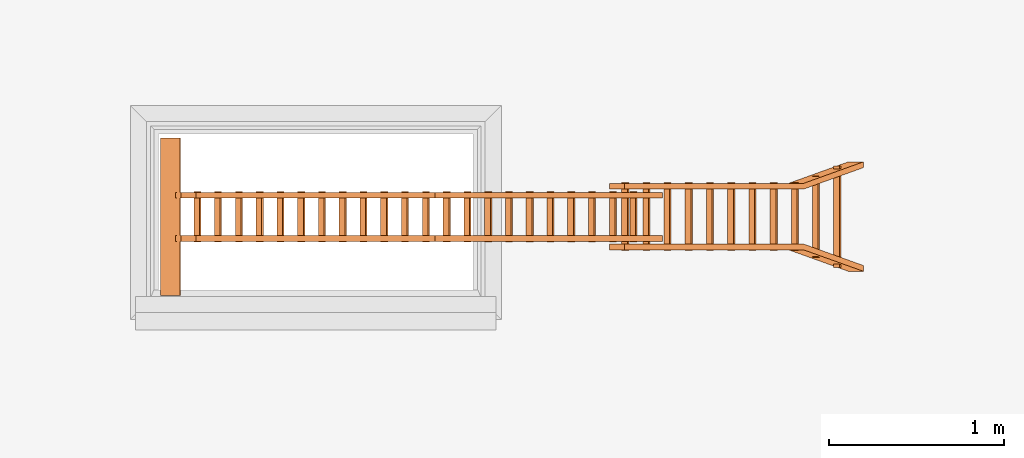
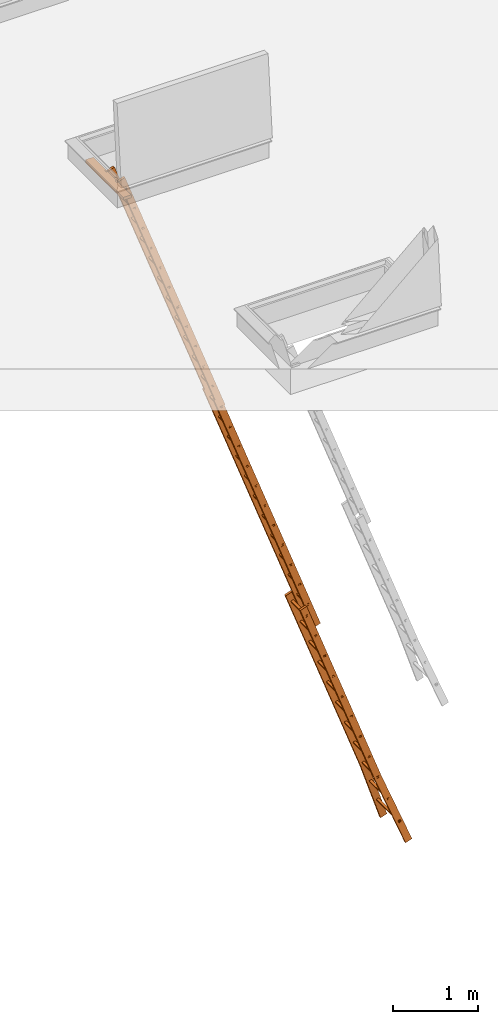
# One storey, part 6 of 28: 1 proxy, 2 openings.
"""IFC2X3 building model written with IfcOpenShell, lengths in millimetres."""

import ifcopenshell
import ifcopenshell.guid

model = None  # the IFC model being written
_history = None  # IfcOwnerHistory: only IFC2X3 demands one
_inside = {}  # id of a spatial element -> (the spatial element, [elements in it])
_under = {}  # id of a project, library or spatial element -> (it, [spatial elements below it])
_declared = {}  # id of a project -> (the project, [libraries it declares])
_typed = {}  # id of a type object -> (the type object, [elements of that type])
_made_of = {}  # id of a material, layer set ... -> (it, [elements and type objects made of it])


def new_model(schema):
    """Start an empty IFC model of exactly this schema.

    Asked for "IFC4X3", IfcOpenShell would pick the latest addendum, in which some entities
    have other attributes; the version numbers below select the first issue.
    IFC2X3 requires an IfcOwnerHistory on every rooted entity: one is made here for all.
    """
    global model, _history
    if schema == "IFC4X3":
        model = ifcopenshell.file(schema_version=(4, 3, 0, 0))
    else:
        model = ifcopenshell.file(schema=schema)
    _inside.clear()
    _under.clear()
    _declared.clear()
    _typed.clear()
    _made_of.clear()
    _history = None
    if model.schema == "IFC2X3":
        org = make("IfcOrganization", Name="unknown")
        user = make(
            "IfcPersonAndOrganization",
            ThePerson=make("IfcPerson", FamilyName="unknown"),
            TheOrganization=org,
        )
        app = make(
            "IfcApplication",
            ApplicationDeveloper=org,
            Version="unknown",
            ApplicationFullName="unknown",
            ApplicationIdentifier="unknown",
        )
        _history = make(
            "IfcOwnerHistory",
            OwningUser=user,
            OwningApplication=app,
            ChangeAction="ADDED",
            CreationDate=0,
        )
    return model


def make(cls, **values):
    """One entity of the class cls with the attributes given. An attribute that is None is left unset."""
    return model.create_entity(
        cls, **{name: value for name, value in values.items() if value is not None}
    )


def entity(cls, *values):
    """Any entity or typed value of the class cls, its attributes in the order of the schema. None: left unset."""
    e = model.create_entity(cls)
    for i, value in enumerate(values):
        if value is not None:
            e[i] = value
    return e


def rooted(cls, **values):
    """An entity with a GlobalId (a new one), such as an element, a storey or a relation."""
    return make(cls, GlobalId=ifcopenshell.guid.new(), OwnerHistory=_history, **values)


def si_unit(unit_type, name, prefix=None):
    """IfcSIUnit, for example si_unit("LENGTHUNIT", "METRE", prefix="MILLI")."""
    return make("IfcSIUnit", UnitType=unit_type, Prefix=prefix, Name=name)


def converted_unit(unit_type, name, factor, base, dimensions=None, offset=None):
    """IfcConversionBasedUnit, such as the inch: factor (a typed value) times the base unit."""
    return make(
        "IfcConversionBasedUnit"
        if offset is None
        else "IfcConversionBasedUnitWithOffset",
        ConversionOffset=offset,
        Dimensions=None
        if dimensions is None
        else entity("IfcDimensionalExponents", *dimensions),
        UnitType=unit_type,
        Name=name,
        ConversionFactor=make(
            "IfcMeasureWithUnit", ValueComponent=factor, UnitComponent=base
        ),
    )


def derived_unit(unit_type, elements):
    """IfcDerivedUnit: a product of units, each with its exponent."""
    return make(
        "IfcDerivedUnit",
        Elements=[
            make("IfcDerivedUnitElement", Unit=unit, Exponent=power)
            for unit, power in elements
        ],
        UnitType=unit_type,
    )


def assignment(units):
    """IfcUnitAssignment: the units of a project."""
    return None if units is None else make("IfcUnitAssignment", Units=units)


def point(xyz):
    """IfcCartesianPoint."""
    return None if xyz is None else make("IfcCartesianPoint", Coordinates=xyz)


def direction(xyz):
    """IfcDirection."""
    return None if xyz is None else make("IfcDirection", DirectionRatios=xyz)


def frame(location, z_axis=None, x_axis=None):
    """IfcAxis2Placement3D, a coordinate frame: its origin and axes. An axis left out is left unset."""
    return make(
        "IfcAxis2Placement3D",
        Location=point(location),
        Axis=direction(z_axis),
        RefDirection=direction(x_axis),
    )


def frame_2d(location, x_axis=None):
    """IfcAxis2Placement2D, a coordinate frame in the plane: its origin and x axis."""
    return make(
        "IfcAxis2Placement2D", Location=point(location), RefDirection=direction(x_axis)
    )


def origin():
    """The frame at (0, 0, 0) with its axes left unset."""
    return frame((0.0, 0.0, 0.0))


def origin_2d_with_axis():
    """The frame at (0, 0) in the plane with the x axis (1, 0) written out."""
    return frame_2d((0.0, 0.0), x_axis=(1.0, 0.0))


def place(relative_to, where):
    """IfcLocalPlacement: puts the frame where relative to a parent placement (None: the world)."""
    return make(
        "IfcLocalPlacement", PlacementRelTo=relative_to, RelativePlacement=where
    )


def context(
    kind, dimensions, precision=None, world=None, true_north=None, identifier=None
):
    """IfcGeometricRepresentationContext, for example the 3D "Model" context."""
    return make(
        "IfcGeometricRepresentationContext",
        ContextIdentifier=identifier,
        ContextType=kind,
        CoordinateSpaceDimension=dimensions,
        Precision=precision,
        WorldCoordinateSystem=world,
        TrueNorth=true_north,
    )


def subcontext(parent, identifier, kind, view, scale=None):
    """IfcGeometricRepresentationSubContext, for example "Body" below "Model"."""
    return make(
        "IfcGeometricRepresentationSubContext",
        ContextIdentifier=identifier,
        ContextType=kind,
        ParentContext=parent,
        TargetScale=scale,
        TargetView=view,
    )


def project(units=None, contexts=None):
    """IfcProject with its units and contexts."""
    return rooted(
        "IfcProject",
        Name="project",
        RepresentationContexts=contexts,
        UnitsInContext=assignment(units),
    )


def spatial(cls, under=None, at=None, **own):
    """A site, building, storey or space (cls), placed at a placement, below another one or the project."""
    s = rooted(cls, ObjectPlacement=at, **own)
    if under is not None:
        _under.setdefault(under.id(), (under, []))[1].append(s)
    return s


def polyline(points):
    """IfcPolyline through the points."""
    return make("IfcPolyline", Points=[point(p) for p in points])


def circle_curve(where, radius):
    """IfcCircle in the frame where."""
    return make("IfcCircle", Position=where, Radius=radius)


def parameter(value):
    """IfcParameterValue: where a trimmed curve begins or ends, as a parameter of its basis curve."""
    return model.create_entity("IfcParameterValue", value)


def trimmed(basis, trim1, trim2, sense, master):
    """IfcTrimmedCurve: the piece of a basis curve between two trims."""
    return make(
        "IfcTrimmedCurve",
        BasisCurve=basis,
        Trim1=trim1,
        Trim2=trim2,
        SenseAgreement=sense,
        MasterRepresentation=master,
    )


def segment(curve, same_sense, transition):
    """IfcCompositeCurveSegment."""
    return make(
        "IfcCompositeCurveSegment",
        Transition=transition,
        SameSense=same_sense,
        ParentCurve=curve,
    )


def composite_curve(segments, self_intersect=None):
    """IfcCompositeCurve: segments joined end to end."""
    return make("IfcCompositeCurve", Segments=segments, SelfIntersect=self_intersect)


def profile(cls, at=None, kind="AREA", **sizes):
    """A parametric profile (cls). Its sizes go by their IFC names, for example OverallWidth=200.0."""
    return make(cls, ProfileType=kind, Position=at, **sizes)


def rectangle(**sizes):
    """IfcRectangleProfileDef."""
    return profile("IfcRectangleProfileDef", **sizes)


def outline(outer, holes=None, kind="AREA"):
    """IfcArbitraryClosedProfileDef: a profile drawn as a closed curve; with holes, ...WithVoids."""
    if holes is None:
        return make("IfcArbitraryClosedProfileDef", ProfileType=kind, OuterCurve=outer)
    return make(
        "IfcArbitraryProfileDefWithVoids",
        ProfileType=kind,
        OuterCurve=outer,
        InnerCurves=holes,
    )


def extrude(swept, where, along, depth):
    """IfcExtrudedAreaSolid: the profile swept, set in the frame where, extruded along a direction by depth."""
    return make(
        "IfcExtrudedAreaSolid",
        SweptArea=swept,
        Position=where,
        ExtrudedDirection=direction(along),
        Depth=depth,
    )


def shape(context_of_items, identifier, shape_type, items):
    """IfcShapeRepresentation: the items that make up one representation, for example the "Body"."""
    return make(
        "IfcShapeRepresentation",
        ContextOfItems=context_of_items,
        RepresentationIdentifier=identifier,
        RepresentationType=shape_type,
        Items=items,
    )


def source(mapping_origin, context_of_items, identifier, shape_type, items):
    """IfcRepresentationMap: a shape defined once, which mapped items show again and again."""
    return make(
        "IfcRepresentationMap",
        MappingOrigin=mapping_origin,
        MappedRepresentation=shape(context_of_items, identifier, shape_type, items),
    )


def transform(
    local_origin,
    x_axis=None,
    y_axis=None,
    z_axis=None,
    scale=None,
    scale2=None,
    scale3=None,
    uniform=True,
):
    """IfcCartesianTransformationOperator3D, or its non-uniform kind. x_axis, y_axis, z_axis: its Axis1, 2, 3."""
    if uniform:
        return make(
            "IfcCartesianTransformationOperator3D",
            Axis1=direction(x_axis),
            Axis2=direction(y_axis),
            LocalOrigin=point(local_origin),
            Scale=scale,
            Axis3=direction(z_axis),
        )
    return make(
        "IfcCartesianTransformationOperator3DnonUniform",
        Axis1=direction(x_axis),
        Axis2=direction(y_axis),
        LocalOrigin=point(local_origin),
        Scale=scale,
        Axis3=direction(z_axis),
        Scale2=scale2,
        Scale3=scale3,
    )


def mapped(mapping_source, mapping_target):
    """IfcMappedItem: shows the shape of a source again, moved by a transform."""
    return make(
        "IfcMappedItem", MappingSource=mapping_source, MappingTarget=mapping_target
    )


def made_of(thing, what):
    """Note that an element or type object is made of a material, layer set ...; save() writes the relation."""
    if what is not None:
        _made_of.setdefault(what.id(), (what, []))[1].append(thing)
    return thing


def type_object(cls, material=None, **own):
    """A type object (cls), such as IfcWallType, which elements share."""
    return made_of(rooted(cls, **own), material)


def type_shapes(of_type, sources):
    """Give a type object the sources (RepresentationMaps) that its elements show as mapped items."""
    of_type.RepresentationMaps = sources


def element(
    cls,
    number,
    at=None,
    inside=None,
    cuts=None,
    type_object=None,
    material=None,
    context=None,
    identifier="Body",
    shape_type=None,
    held_by="IfcProductDefinitionShape",
    body=None,
    shapes=None,
    **own,
):
    """One element of the class cls, such as IfcWall. Its Tag is "e" and its number.

    at: its placement. inside: the storey or other place that contains it. cuts: it is an
    opening in that element (IfcRelVoidsElement). A single representation is given by context,
    identifier, shape_type and body (its items); several are given by shapes. held_by: the class
    of the entity that holds the representations. save() writes the other relations.
    """
    e = rooted(cls, Tag="e%d" % number, ObjectPlacement=at, **own)
    if body is not None:
        shapes = [shape(context, identifier, shape_type, body)]
    if shapes is not None:
        e.Representation = make(held_by, Representations=shapes)
    if inside is not None:
        _inside.setdefault(inside.id(), (inside, []))[1].append(e)
    if cuts is not None:
        rooted(
            "IfcRelVoidsElement", RelatingBuildingElement=cuts, RelatedOpeningElement=e
        )
    if type_object is not None:
        _typed.setdefault(type_object.id(), (type_object, []))[1].append(e)
    return made_of(e, material)


def aggregate(whole, parts):
    """IfcRelAggregates: a whole, such as a stair, and the parts it consists of."""
    return rooted("IfcRelAggregates", RelatingObject=whole, RelatedObjects=parts)


def save(model, path):
    """Write the relations noted so far, then the file.

    IfcRelAggregates (storeys below a building ...), IfcRelContainedInSpatialStructure (elements
    in a storey), IfcRelDefinesByType, IfcRelAssociatesMaterial and IfcRelDeclares: one each for
    every whole, place, type object, material and project.
    """
    for whole, parts in _under.values():
        aggregate(whole, parts)
    for where, things in _inside.values():
        rooted(
            "IfcRelContainedInSpatialStructure",
            RelatedElements=things,
            RelatingStructure=where,
        )
    for kind, things in _typed.values():
        rooted("IfcRelDefinesByType", RelatedObjects=things, RelatingType=kind)
    for what, things in _made_of.values():
        rooted("IfcRelAssociatesMaterial", RelatedObjects=things, RelatingMaterial=what)
    for by, libraries in _declared.values():
        rooted("IfcRelDeclares", RelatingContext=by, RelatedDefinitions=libraries)
    model.write(path)


model = new_model("IFC2X3")

# Units and contexts
model_context = context("Model", 3, precision=0.01, world=origin(), true_north=direction((6.12303176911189e-17, 1.0)))
body_context = subcontext(model_context, "Body", "Model", "MODEL_VIEW")
ifc_project = project(units=[si_unit("LENGTHUNIT", "METRE", prefix="MILLI"), si_unit("AREAUNIT", "SQUARE_METRE"), si_unit("VOLUMEUNIT", "CUBIC_METRE"), converted_unit("PLANEANGLEUNIT", "DEGREE", entity("IfcRatioMeasure", 0.0174532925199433), si_unit("PLANEANGLEUNIT", "RADIAN"), dimensions=[0, 0, 0, 0, 0, 0, 0]), si_unit("MASSUNIT", "GRAM", prefix="KILO"), derived_unit("MASSDENSITYUNIT", [(si_unit("MASSUNIT", "GRAM", prefix="KILO"), 1), (si_unit("LENGTHUNIT", "METRE"), -3)]), si_unit("TIMEUNIT", "SECOND"), si_unit("FREQUENCYUNIT", "HERTZ"), si_unit("THERMODYNAMICTEMPERATUREUNIT", "DEGREE_CELSIUS"), derived_unit("THERMALTRANSMITTANCEUNIT", [(si_unit("MASSUNIT", "GRAM", prefix="KILO"), 1), (si_unit("THERMODYNAMICTEMPERATUREUNIT", "KELVIN"), -1), (si_unit("TIMEUNIT", "SECOND"), -3)]), derived_unit("VOLUMETRICFLOWRATEUNIT", [(si_unit("LENGTHUNIT", "METRE"), 3), (si_unit("TIMEUNIT", "SECOND"), -1)]), si_unit("ELECTRICCURRENTUNIT", "AMPERE"), si_unit("ELECTRICVOLTAGEUNIT", "VOLT"), si_unit("POWERUNIT", "WATT"), si_unit("FORCEUNIT", "NEWTON", prefix="KILO"), si_unit("ILLUMINANCEUNIT", "LUX"), si_unit("LUMINOUSFLUXUNIT", "LUMEN"), si_unit("LUMINOUSINTENSITYUNIT", "CANDELA"), derived_unit("USERDEFINED", [(si_unit("MASSUNIT", "GRAM", prefix="KILO"), -1), (si_unit("LENGTHUNIT", "METRE"), -2), (si_unit("TIMEUNIT", "SECOND"), 3), (si_unit("LUMINOUSFLUXUNIT", "LUMEN"), 1)]), derived_unit("LINEARVELOCITYUNIT", [(si_unit("LENGTHUNIT", "METRE"), 1), (si_unit("TIMEUNIT", "SECOND"), -1)]), si_unit("PRESSUREUNIT", "PASCAL"), derived_unit("USERDEFINED", [(si_unit("LENGTHUNIT", "METRE"), -2), (si_unit("MASSUNIT", "GRAM", prefix="KILO"), 1), (si_unit("TIMEUNIT", "SECOND"), -2)])], contexts=[model_context])

# Site, building, storey
site_placement = place(None, origin())
site = spatial("IfcSite", under=ifc_project, at=site_placement, Name="Default", CompositionType="ELEMENT")
building_placement = place(site_placement, origin())
building = spatial("IfcBuilding", under=site, at=building_placement, CompositionType="ELEMENT")
storey_placement = place(building_placement, frame((0.0, 0.0, 4000.0)))
storey = spatial("IfcBuildingStorey", under=building, at=storey_placement, Name="Level 2", CompositionType="ELEMENT", Elevation=4000.0)

# Proxy, openings
building_element_proxy_type = type_object("IfcBuildingElementProxyType", Name="9_Topaccess_Trap_3delige1", PredefinedType="NOTDEFINED")
shared_shape = source(origin(), body_context, "Body", "SweptSolid", [
    extrude(outline(composite_curve([segment(polyline([(-20.0, -72.6666666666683), (20.0, -72.6666666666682)]), True, "CONTINUOUS"), segment(polyline([(20.0, -72.6666666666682), (20.0, 31.8333333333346)]), True, "CONTINUOUS"), segment(trimmed(circle_curve(frame_2d((11.0, 31.8333333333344), x_axis=(0.939692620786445, -0.342020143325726)), 8.99999999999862), [parameter(20.0000000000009)], [parameter(109.999999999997)], True, "PARAMETER"), True, "CONTINUOUS"), segment(polyline([(11.0, 40.8333333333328), (-11.0, 40.833333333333)]), True, "CONTINUOUS"), segment(trimmed(circle_curve(frame_2d((-11.0, 31.8333333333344), x_axis=(0.939692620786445, -0.342020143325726)), 8.99999999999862), [parameter(109.999999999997)], [parameter(199.999999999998)], True, "PARAMETER"), True, "CONTINUOUS"), segment(polyline([(-20.0, 31.8333333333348), (-20.0, -72.6666666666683)]), True, "CONTINUOUS")], self_intersect=False)), frame((-484.291584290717, 5437.00468660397, 85.555153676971), z_axis=(1.0, 0.0, 0.0), x_axis=(0.0, 0.939692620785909, 0.342020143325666)), (0.0, 0.0, 1.0), 900.0),
    extrude(outline(composite_curve([segment(polyline([(34.5620685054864, -17.3803405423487), (-85.4379314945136, -17.3803405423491)]), True, "CONTINUOUS"), segment(polyline([(-85.4379314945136, -17.3803405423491), (-85.4379314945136, -20.3803405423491)]), True, "CONTINUOUS"), segment(polyline([(-85.4379314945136, -20.3803405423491), (34.8237042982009, -20.3803405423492)]), True, "CONTINUOUS"), segment(trimmed(circle_curve(frame_2d((31.2529900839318, 0.719659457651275), x_axis=(1.0, 0.0)), 21.4), [parameter(279.605058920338)], [parameter(66.7401617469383)], True, "PARAMETER"), True, "CONTINUOUS"), segment(polyline([(39.7038846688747, 20.3803405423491), (11.3620685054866, 20.380340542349)]), True, "CONTINUOUS"), segment(polyline([(11.3620685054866, 20.380340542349), (11.3620685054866, 17.380340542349)]), True, "CONTINUOUS"), segment(polyline([(11.3620685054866, 17.380340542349), (39.0620685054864, 17.3803405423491)]), True, "CONTINUOUS"), segment(trimmed(circle_curve(frame_2d((31.2529900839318, 0.719659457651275), x_axis=(1.0, 0.0)), 18.4), [parameter(280.36051137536)], [parameter(64.8869014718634)], True, "PARAMETER"), False, "CONTINUOUS")], self_intersect=False)), frame((72.0, 5400.1320556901, 113.619659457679), z_axis=(-1.0, 0.0, 0.0), x_axis=(0.0, 1.0, 0.0)), (0.0, 0.0, -1.0), 33.0),
    extrude(outline(composite_curve([segment(polyline([(-85.4379314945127, -17.3803405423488), (-85.4379314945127, -20.3803405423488)]), True, "CONTINUOUS"), segment(polyline([(-85.4379314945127, -20.3803405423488), (34.8237042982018, -20.3803405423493)]), True, "CONTINUOUS"), segment(trimmed(circle_curve(frame_2d((31.2529900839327, 0.719659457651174), x_axis=(1.0, 0.0)), 21.4), [parameter(279.605058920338)], [parameter(66.7401617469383)], True, "PARAMETER"), True, "CONTINUOUS"), segment(polyline([(39.7038846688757, 20.380340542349), (11.3620685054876, 20.380340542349)]), True, "CONTINUOUS"), segment(polyline([(11.3620685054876, 20.380340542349), (11.3620685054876, 17.380340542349)]), True, "CONTINUOUS"), segment(polyline([(11.3620685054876, 17.380340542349), (39.0620685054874, 17.380340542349)]), True, "CONTINUOUS"), segment(trimmed(circle_curve(frame_2d((31.2529900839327, 0.719659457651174), x_axis=(1.0, 0.0)), 18.4), [parameter(280.36051137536)], [parameter(64.8869014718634)], True, "PARAMETER"), False, "CONTINUOUS"), segment(polyline([(34.5620685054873, -17.3803405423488), (-85.4379314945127, -17.3803405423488)]), True, "CONTINUOUS")], self_intersect=False)), frame((-175.0, 5400.13205569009, 113.619659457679), z_axis=(-1.0, 0.0, 0.0), x_axis=(0.0, 1.0, 0.0)), (0.0, 0.0, -1.0), 33.0000000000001),
    extrude(outline(polyline([(-11.5216143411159, -16.5), (13.8405381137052, -16.5), (13.8405381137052, 16.4999999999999), (-16.1594618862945, 16.5), (-11.5216143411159, -16.5)]), holes=[polyline([(8.84053811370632, -11.5), (-7.1751806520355, -11.5), (-10.4076198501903, 11.5000000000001), (8.84053811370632, 11.5), (8.84053811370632, -11.5)])]), frame((-178.583168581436, 1440.72573419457, 171.084388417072), z_axis=(1.0, 0.0, 0.0), x_axis=(0.0, -1.0, 0.0)), (0.0, 0.0, 1.0), 288.583168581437),
    extrude(outline(polyline([(-11.5216143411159, -16.5), (13.8405381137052, -16.5), (13.8405381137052, 16.4999999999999), (-16.1594618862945, 16.5), (-11.5216143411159, -16.5)]), holes=[polyline([(8.84053811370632, -11.5), (-7.1751806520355, -11.5), (-10.4076198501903, 11.5000000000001), (8.84053811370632, 11.5), (8.84053811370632, -11.5)])]), frame((-178.583168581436, 1093.22573419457, 171.084388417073), z_axis=(1.0, 0.0, 0.0), x_axis=(0.0, -1.0, 0.0)), (0.0, 0.0, 1.0), 288.583168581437),
    extrude(outline(polyline([(-11.5216143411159, -16.5), (13.8405381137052, -16.5), (13.8405381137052, 16.4999999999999), (-16.1594618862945, 16.5), (-11.5216143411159, -16.5)]), holes=[polyline([(8.84053811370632, -11.5), (-7.1751806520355, -11.5), (-10.4076198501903, 11.5000000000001), (8.84053811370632, 11.5), (8.84053811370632, -11.5)])]), frame((-178.583168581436, 745.725734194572, 171.084388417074), z_axis=(1.0, 0.0, 0.0), x_axis=(0.0, -1.0, 0.0)), (0.0, 0.0, 1.0), 288.583168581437),
    extrude(outline(polyline([(-11.5216143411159, -16.5), (13.8405381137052, -16.5), (13.8405381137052, 16.4999999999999), (-16.1594618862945, 16.5), (-11.5216143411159, -16.5)]), holes=[polyline([(8.84053811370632, -11.5), (-7.1751806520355, -11.5), (-10.4076198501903, 11.5000000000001), (8.84053811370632, 11.5), (8.84053811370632, -11.5)])]), frame((-178.583168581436, 398.225734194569, 171.084388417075), z_axis=(1.0, 0.0, 0.0), x_axis=(0.0, -1.0, 0.0)), (0.0, 0.0, 1.0), 288.583168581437),
    extrude(outline(polyline([(-11.5216143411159, -16.5), (13.8405381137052, -16.5), (13.8405381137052, 16.4999999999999), (-16.1594618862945, 16.5), (-11.5216143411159, -16.5)]), holes=[polyline([(8.84053811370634, -11.5), (-7.17518065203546, -11.5), (-10.4076198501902, 11.5000000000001), (8.84053811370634, 11.5), (8.84053811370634, -11.5)])]), frame((-178.583168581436, 50.7257341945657, 171.084388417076), z_axis=(1.0, 0.0, 0.0), x_axis=(0.0, -1.0, 0.0)), (0.0, 0.0, 1.0), 288.583168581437),
    extrude(outline(polyline([(-11.5216143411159, -16.5), (13.8405381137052, -16.5), (13.8405381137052, 16.4999999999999), (-16.1594618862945, 16.5), (-11.5216143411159, -16.5)]), holes=[polyline([(8.84053811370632, -11.5), (-7.17518065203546, -11.5), (-10.4076198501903, 11.5000000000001), (8.84053811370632, 11.5), (8.84053811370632, -11.5)])]), frame((-178.583168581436, -296.774265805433, 171.084388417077), z_axis=(1.0, 0.0, 0.0), x_axis=(0.0, -1.0, 0.0)), (0.0, 0.0, 1.0), 288.583168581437),
    extrude(outline(polyline([(-11.5216143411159, -16.5), (13.8405381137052, -16.5), (13.8405381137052, 16.4999999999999), (-16.1594618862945, 16.5), (-11.5216143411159, -16.5)]), holes=[polyline([(8.84053811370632, -11.5), (-7.1751806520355, -11.5), (-10.4076198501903, 11.5000000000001), (8.84053811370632, 11.5), (8.84053811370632, -11.5)])]), frame((-178.583168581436, -644.274265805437, 171.084388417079), z_axis=(1.0, 0.0, 0.0), x_axis=(0.0, -1.0, 0.0)), (0.0, 0.0, 1.0), 288.583168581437),
    extrude(outline(polyline([(-11.5216143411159, -16.5), (13.8405381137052, -16.5), (13.8405381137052, 16.4999999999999), (-16.1594618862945, 16.5), (-11.5216143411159, -16.5)]), holes=[polyline([(8.84053811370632, -11.5), (-7.1751806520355, -11.5), (-10.4076198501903, 11.5000000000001), (8.84053811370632, 11.5), (8.84053811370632, -11.5)])]), frame((-178.583168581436, -991.774265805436, 171.08438841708), z_axis=(1.0, 0.0, 0.0), x_axis=(0.0, -1.0, 0.0)), (0.0, 0.0, 1.0), 288.583168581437),
    extrude(outline(polyline([(-11.5216143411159, -16.5), (13.8405381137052, -16.5), (13.8405381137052, 16.4999999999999), (-16.1594618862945, 16.5), (-11.5216143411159, -16.5)]), holes=[polyline([(8.84053811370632, -11.5), (-7.1751806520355, -11.5), (-10.4076198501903, 11.5000000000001), (8.84053811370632, 11.5), (8.84053811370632, -11.5)])]), frame((-178.583168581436, -1339.27426580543, 171.084388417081), z_axis=(1.0, 0.0, 0.0), x_axis=(0.0, -1.0, 0.0)), (0.0, 0.0, 1.0), 288.583168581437),
    extrude(outline(polyline([(-11.5216143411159, -16.4999999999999), (13.8405381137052, -16.4999999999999), (13.8405381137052, 16.4999999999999), (-16.1594618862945, 16.5), (-11.5216143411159, -16.4999999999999)]), holes=[polyline([(8.84053811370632, -11.5), (-7.1751806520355, -11.5), (-10.4076198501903, 11.5000000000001), (8.84053811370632, 11.5), (8.84053811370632, -11.5)])]), frame((-178.583168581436, -1686.77426580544, 171.084388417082), z_axis=(1.0, 0.0, 0.0), x_axis=(0.0, -1.0, 0.0)), (0.0, 0.0, 1.0), 288.583168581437),
    extrude(rectangle(XDim=33.0, YDim=4000.0, at=origin_2d_with_axis()), frame((88.5000000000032, -399.911054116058, 120.0), z_axis=(0.0, 0.0, 1.0), x_axis=(-1.0, 0.0, 0.0)), (0.0, 0.0, 1.0), 92.0),
    extrude(rectangle(XDim=33.0, YDim=4000.0, at=frame_2d((8.88178419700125e-15, 0.0), x_axis=(1.0, 0.0))), frame((-158.499999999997, -399.911054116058, 120.0), z_axis=(0.0, 0.0, 1.0), x_axis=(-1.0, 0.0, 0.0)), (0.0, 0.0, 1.0), 92.0),
    extrude(rectangle(XDim=33.0, YDim=4000.0, at=origin_2d_with_axis()), frame((88.5000000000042, 3440.6557599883, 134.0), z_axis=(0.0, 0.0, 1.0), x_axis=(-1.0, 0.0, 0.0)), (0.0, 0.0, 1.0), 90.0),
    extrude(rectangle(XDim=33.0, YDim=4000.0, at=frame_2d((8.88178419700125e-15, -5.6843418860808e-13), x_axis=(1.0, 0.0))), frame((-158.499999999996, 3440.6557599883, 134.0), z_axis=(0.0, 0.0, 1.0), x_axis=(-1.0, 0.0, 0.0)), (0.0, 0.0, 1.0), 90.0),
    extrude(outline(polyline([(-11.5216143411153, -16.5), (13.8405381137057, -16.5), (13.8405381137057, 16.5), (-16.159461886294, 16.5000000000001), (-11.5216143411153, -16.5)]), holes=[polyline([(8.84053811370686, -11.5), (-7.17518065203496, -11.5), (-10.4076198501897, 11.5), (8.84053811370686, 11.5), (8.84053811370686, -11.5)])]), frame((-178.583168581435, 5281.29254829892, 176.084388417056), z_axis=(1.0, 0.0, 0.0), x_axis=(0.0, -1.0, 0.0)), (0.0, 0.0, 1.0), 288.583168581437),
    extrude(outline(polyline([(-11.5216143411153, -16.5), (13.8405381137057, -16.5), (13.8405381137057, 16.5), (-16.159461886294, 16.5000000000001), (-11.5216143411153, -16.5)]), holes=[polyline([(8.84053811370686, -11.5), (-7.17518065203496, -11.5), (-10.4076198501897, 11.5), (8.84053811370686, 11.5), (8.84053811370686, -11.5)])]), frame((-178.583168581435, 4933.79254829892, 176.084388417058), z_axis=(1.0, 0.0, 0.0), x_axis=(0.0, -1.0, 0.0)), (0.0, 0.0, 1.0), 288.583168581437),
    extrude(outline(polyline([(-11.5216143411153, -16.5), (13.8405381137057, -16.5), (13.8405381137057, 16.5), (-16.159461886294, 16.5000000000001), (-11.5216143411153, -16.5)]), holes=[polyline([(8.84053811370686, -11.5), (-7.17518065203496, -11.5), (-10.4076198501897, 11.5), (8.84053811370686, 11.5), (8.84053811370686, -11.5)])]), frame((-178.583168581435, 4586.29254829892, 176.084388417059), z_axis=(1.0, 0.0, 0.0), x_axis=(0.0, -1.0, 0.0)), (0.0, 0.0, 1.0), 288.583168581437),
    extrude(outline(polyline([(-11.5216143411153, -16.5), (13.8405381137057, -16.5), (13.8405381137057, 16.4999999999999), (-16.159461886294, 16.5), (-11.5216143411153, -16.5)]), holes=[polyline([(8.84053811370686, -11.5), (-7.17518065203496, -11.5), (-10.4076198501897, 11.5), (8.84053811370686, 11.4999999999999), (8.84053811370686, -11.5)])]), frame((-178.583168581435, 4238.79254829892, 176.08438841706), z_axis=(1.0, 0.0, 0.0), x_axis=(0.0, -1.0, 0.0)), (0.0, 0.0, 1.0), 288.583168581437),
    extrude(outline(polyline([(-11.5216143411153, -16.5), (13.8405381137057, -16.5), (13.8405381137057, 16.5), (-16.159461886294, 16.5000000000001), (-11.5216143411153, -16.5)]), holes=[polyline([(8.84053811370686, -11.5), (-7.17518065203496, -11.5), (-10.4076198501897, 11.5), (8.84053811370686, 11.5), (8.84053811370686, -11.5)])]), frame((-178.583168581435, 3891.29254829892, 176.084388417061), z_axis=(1.0, 0.0, 0.0), x_axis=(0.0, -1.0, 0.0)), (0.0, 0.0, 1.0), 288.583168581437),
    extrude(outline(polyline([(-11.5216143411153, -16.5), (13.8405381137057, -16.5), (13.8405381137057, 16.5), (-16.159461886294, 16.5000000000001), (-11.5216143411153, -16.5)]), holes=[polyline([(8.84053811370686, -11.5), (-7.17518065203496, -11.5), (-10.4076198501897, 11.5), (8.84053811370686, 11.5), (8.84053811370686, -11.5)])]), frame((-178.583168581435, 3543.79254829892, 176.084388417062), z_axis=(1.0, 0.0, 0.0), x_axis=(0.0, -1.0, 0.0)), (0.0, 0.0, 1.0), 288.583168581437),
    extrude(outline(polyline([(-11.5216143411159, -16.5), (13.8405381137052, -16.5), (13.8405381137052, 16.4999999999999), (-16.1594618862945, 16.5), (-11.5216143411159, -16.5)]), holes=[polyline([(8.84053811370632, -11.5), (-7.1751806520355, -11.5), (-10.4076198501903, 11.5), (8.84053811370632, 11.5), (8.84053811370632, -11.5)])]), frame((-178.583168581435, 3196.29254829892, 176.084388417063), z_axis=(1.0, 0.0, 0.0), x_axis=(0.0, -1.0, 0.0)), (0.0, 0.0, 1.0), 288.583168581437),
    extrude(outline(polyline([(-11.5216143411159, -16.5), (13.8405381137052, -16.5), (13.8405381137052, 16.4999999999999), (-16.1594618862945, 16.5), (-11.5216143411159, -16.5)]), holes=[polyline([(8.84053811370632, -11.5), (-7.1751806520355, -11.5), (-10.4076198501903, 11.5), (8.84053811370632, 11.5), (8.84053811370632, -11.5)])]), frame((-178.583168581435, 2848.79254829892, 176.084388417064), z_axis=(1.0, 0.0, 0.0), x_axis=(0.0, -1.0, 0.0)), (0.0, 0.0, 1.0), 288.583168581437),
    extrude(outline(polyline([(-11.5216143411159, -16.5), (13.8405381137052, -16.5), (13.8405381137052, 16.5), (-16.1594618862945, 16.5000000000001), (-11.5216143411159, -16.5)]), holes=[polyline([(8.84053811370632, -11.5), (-7.1751806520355, -11.5), (-10.4076198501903, 11.5000000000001), (8.84053811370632, 11.5), (8.84053811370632, -11.5)])]), frame((-178.583168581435, 2501.29254829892, 176.084388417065), z_axis=(1.0, 0.0, 0.0), x_axis=(0.0, -1.0, 0.0)), (0.0, 0.0, 1.0), 288.583168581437),
    extrude(outline(polyline([(-11.5216143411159, -16.5), (13.8405381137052, -16.5), (13.8405381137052, 16.5), (-16.1594618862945, 16.5000000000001), (-11.5216143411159, -16.5)]), holes=[polyline([(8.84053811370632, -11.5), (-7.1751806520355, -11.5), (-10.4076198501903, 11.5), (8.84053811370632, 11.5), (8.84053811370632, -11.5)])]), frame((-178.583168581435, 2153.79254829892, 176.084388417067), z_axis=(1.0, 0.0, 0.0), x_axis=(0.0, -1.0, 0.0)), (0.0, 0.0, 1.0), 288.583168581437),
    extrude(outline(polyline([(-11.5216143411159, -16.5), (13.8405381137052, -16.5), (13.8405381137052, 16.4999999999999), (-16.1594618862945, 16.5), (-11.5216143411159, -16.5)]), holes=[polyline([(8.84053811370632, -11.5), (-7.1751806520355, -11.5), (-10.4076198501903, 11.5), (8.84053811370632, 11.5), (8.84053811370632, -11.5)])]), frame((-178.583168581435, 1806.29254829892, 176.084388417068), z_axis=(1.0, 0.0, 0.0), x_axis=(0.0, -1.0, 0.0)), (0.0, 0.0, 1.0), 288.583168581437),
    extrude(outline(polyline([(-11.5216143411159, -16.5), (13.8405381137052, -16.5), (13.8405381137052, 16.4999999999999), (-16.1594618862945, 16.5), (-11.5216143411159, -16.5)]), holes=[polyline([(8.84053811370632, -11.5), (-7.1751806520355, -11.5), (-10.4076198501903, 11.5), (8.84053811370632, 11.5), (8.84053811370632, -11.5)])]), frame((-227.077291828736, -2129.53575748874, 85.0843884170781), z_axis=(1.0, 0.0, 0.0), x_axis=(0.0, -1.0, 0.0)), (0.0, 0.0, 1.0), 389.077291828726),
    extrude(outline(polyline([(-11.5216143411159, -16.5), (13.8405381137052, -16.5), (13.8405381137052, 16.5), (-16.1594618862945, 16.5), (-11.5216143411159, -16.5)]), holes=[polyline([(8.84053811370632, -11.5), (-7.1751806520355, -11.5), (-10.4076198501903, 11.5), (8.84053811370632, 11.5), (8.84053811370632, -11.5)])]), frame((-227.077291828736, -2484.53575748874, 85.0843884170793), z_axis=(1.0, 0.0, 0.0), x_axis=(0.0, -1.0, 0.0)), (0.0, 0.0, 1.0), 389.077291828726),
    extrude(outline(polyline([(-11.5216143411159, -16.5), (13.8405381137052, -16.5), (13.8405381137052, 16.4999999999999), (-16.1594618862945, 16.5), (-11.5216143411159, -16.5)]), holes=[polyline([(8.84053811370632, -11.5), (-7.1751806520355, -11.5), (-10.4076198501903, 11.5), (8.84053811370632, 11.5), (8.84053811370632, -11.5)])]), frame((-227.077291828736, -2839.53575748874, 85.0843884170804), z_axis=(1.0, 0.0, 0.0), x_axis=(0.0, -1.0, 0.0)), (0.0, 0.0, 1.0), 389.077291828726),
    extrude(outline(polyline([(-11.5216143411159, -16.5), (13.8405381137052, -16.5), (13.8405381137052, 16.4999999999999), (-16.1594618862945, 16.5), (-11.5216143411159, -16.5)]), holes=[polyline([(8.84053811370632, -11.5), (-7.1751806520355, -11.5), (-10.4076198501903, 11.5000000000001), (8.84053811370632, 11.5), (8.84053811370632, -11.5)])]), frame((-178.583168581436, -2034.27426580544, 171.084388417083), z_axis=(1.0, 0.0, 0.0), x_axis=(0.0, -1.0, 0.0)), (0.0, 0.0, 1.0), 288.583168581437),
    extrude(outline(polyline([(-11.5216143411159, -16.5), (13.8405381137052, -16.5), (13.8405381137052, 16.4999999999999), (-16.1594618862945, 16.5), (-11.5216143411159, -16.5)]), holes=[polyline([(8.84053811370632, -11.5), (-7.1751806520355, -11.5), (-10.4076198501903, 11.5), (8.84053811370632, 11.5), (8.84053811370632, -11.5)])]), frame((-227.077291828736, -3194.53575748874, 85.0843884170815), z_axis=(1.0, 0.0, 0.0), x_axis=(0.0, -1.0, 0.0)), (0.0, 0.0, 1.0), 389.077291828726),
    extrude(outline(polyline([(-11.5216143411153, -16.5), (13.8405381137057, -16.5), (13.8405381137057, 16.4999999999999), (-16.159461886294, 16.5), (-11.5216143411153, -16.5)]), holes=[polyline([(8.84053811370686, -11.5), (-7.17518065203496, -11.5), (-10.4076198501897, 11.5), (8.84053811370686, 11.5), (8.84053811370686, -11.5)])]), frame((-227.077291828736, -3549.53575748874, 85.0843884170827), z_axis=(1.0, 0.0, 0.0), x_axis=(0.0, -1.0, 0.0)), (0.0, 0.0, 1.0), 389.077291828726),
    extrude(outline(polyline([(-11.5216143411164, -16.5), (13.8405381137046, -16.5), (13.8405381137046, 16.5), (-16.159461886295, 16.5), (-11.5216143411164, -16.5)]), holes=[polyline([(8.84053811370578, -11.5), (-7.17518065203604, -11.5), (-10.4076198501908, 11.5), (8.84053811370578, 11.5), (8.84053811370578, -11.5)])]), frame((-227.077291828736, -3904.53575748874, 85.0843884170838), z_axis=(1.0, 0.0, 0.0), x_axis=(0.0, -1.0, 0.0)), (0.0, 0.0, 1.0), 389.077291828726),
    extrude(outline(polyline([(-11.5216143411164, -16.5), (13.8405381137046, -16.5), (13.8405381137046, 16.5), (-16.159461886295, 16.5000000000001), (-11.5216143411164, -16.5)]), holes=[polyline([(8.84053811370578, -11.5), (-7.17518065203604, -11.5), (-10.4076198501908, 11.5000000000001), (8.84053811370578, 11.5), (8.84053811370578, -11.5)])]), frame((-227.077291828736, -4259.53575748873, 85.084388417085), z_axis=(1.0, 0.0, 0.0), x_axis=(0.0, -1.0, 0.0)), (0.0, 0.0, 1.0), 389.077291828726),
    extrude(outline(polyline([(-11.5216143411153, -16.5), (13.8405381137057, -16.5), (13.8405381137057, 16.5), (-16.159461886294, 16.5000000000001), (-11.5216143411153, -16.5)]), holes=[polyline([(8.84053811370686, -11.5), (-7.17518065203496, -11.5), (-10.4076198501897, 11.5000000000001), (8.84053811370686, 11.5), (8.84053811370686, -11.5)])]), frame((-227.077291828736, -4614.53575748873, 85.0843884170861), z_axis=(1.0, 0.0, 0.0), x_axis=(0.0, -1.0, 0.0)), (0.0, 0.0, 1.0), 389.077291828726),
    extrude(outline(polyline([(-11.5216143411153, -16.5), (13.8405381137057, -16.5), (13.8405381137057, 16.5), (-16.159461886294, 16.5000000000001), (-11.5216143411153, -16.5)]), holes=[polyline([(8.84053811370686, -11.5), (-7.17518065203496, -11.5), (-10.4076198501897, 11.5000000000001), (8.84053811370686, 11.5), (8.84053811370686, -11.5)])]), frame((-227.077291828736, -4969.53575748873, 85.0843884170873), z_axis=(1.0, 0.0, 0.0), x_axis=(0.0, -1.0, 0.0)), (0.0, 0.0, 1.0), 389.077291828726),
    extrude(outline(polyline([(-11.5216143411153, -16.5), (13.8405381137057, -16.5), (13.8405381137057, 16.5), (-16.159461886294, 16.5000000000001), (-11.5216143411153, -16.5)]), holes=[polyline([(8.84053811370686, -11.5), (-7.17518065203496, -11.5), (-10.4076198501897, 11.5), (8.84053811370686, 11.5), (8.84053811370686, -11.5)])]), frame((-266.000121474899, -5324.53575748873, 85.0843884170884), z_axis=(1.0, 0.0, 0.0), x_axis=(0.0, -1.0, 0.0)), (0.0, 0.0, 1.0), 465.000121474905),
    extrude(outline(polyline([(-11.5216143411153, -16.5), (13.8405381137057, -16.5), (13.8405381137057, 16.5), (-16.159461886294, 16.5000000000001), (-11.5216143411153, -16.5)]), holes=[polyline([(8.84053811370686, -11.5), (-7.17518065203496, -11.5), (-10.4076198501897, 11.5000000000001), (8.84053811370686, 11.5), (8.84053811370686, -11.5)])]), frame((-323.951711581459, -5679.53575748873, 85.0843884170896), z_axis=(1.0, 0.0, 0.0), x_axis=(0.0, -1.0, 0.0)), (0.0, 0.0, 1.0), 580.345535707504),
    extrude(outline(polyline([(652.705853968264, -138.16622783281), (1663.21970450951, -138.16622783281), (1667.27159501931, -105.166227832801), (656.727542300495, -105.412204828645), (-2317.9515037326, 259.832455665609), (-2321.97319206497, 227.078432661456), (652.705853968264, -138.16622783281)])), frame((181.59152386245, -4331.59474961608, 35.4999999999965), z_axis=(0.0, 0.0, 1.0), x_axis=(0.121869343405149, -0.992546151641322, 0.0)), (0.0, 0.0, 1.0), 92.0),
    extrude(outline(polyline([(655.058107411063, 105.207223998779), (1667.6054819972, 105.207223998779), (1663.55359148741, 138.207223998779), (653.039740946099, 138.207223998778), (-2321.63930508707, -227.037436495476), (-2317.6176167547, -259.791459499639), (655.058107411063, 105.207223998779)])), frame((-247.591523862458, -4331.25835520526, 35.4999999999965), z_axis=(0.0, 0.0, 1.0), x_axis=(-0.121869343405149, -0.992546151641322, 0.0)), (0.0, 0.0, 1.0), 92.0),
])
type_shapes(building_element_proxy_type, [shared_shape])
proxy_placement = place(storey_placement, frame((-11118.7600608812, 9740.53699124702, -4726.49653876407), z_axis=(0.939692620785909, 0.0, 0.342020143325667), x_axis=(0.0, 1.0, 0.0)))
proxy = element("IfcBuildingElementProxy", 1, at=proxy_placement, inside=storey, type_object=building_element_proxy_type, Name="9_Topaccess_Trap_3delige1:9_Topaccess_Trap_3delige1", ObjectType="9_Topaccess_Trap_3delige1", context=body_context, shape_type="MappedRepresentation", body=[
    mapped(shared_shape, transform((0.0, 0.0, 0.0), scale=1.0)),
])
opening_1_placement = place(storey_placement, frame((-11118.7600608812, 9740.53699124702, -726.496538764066), z_axis=(0.321393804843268, 0.939692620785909, 0.11697777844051), x_axis=(-0.342020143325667, 0.0, 0.939692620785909)))
element("IfcOpeningElement", 2, at=opening_1_placement, cuts=proxy, Name="9_Topaccess_Trap_3delige1:9_Topaccess_Trap_3delige1:1", ObjectType="Opening", context=body_context, shape_type="SweptSolid", body=[
    extrude(rectangle(XDim=42.5298592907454, YDim=59.0000000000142, at=frame_2d((1.4210854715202e-14, 0.0), x_axis=(1.0, 0.0))), frame((5417.83179579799, -3629.61402459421, -1489.74364376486), z_axis=(0.939692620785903, 0.321393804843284, 0.116977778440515), x_axis=(0.342020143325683, -0.883022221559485, -0.321393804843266)), (0.0, 0.0, 1.0), 40.0),
])
opening_2_placement = place(storey_placement, frame((-11118.7600608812, 9740.53699124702, -726.496538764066), z_axis=(0.321393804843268, 0.939692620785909, 0.11697777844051), x_axis=(-0.342020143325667, 0.0, 0.939692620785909)))
element("IfcOpeningElement", 3, at=opening_2_placement, cuts=proxy, Name="9_Topaccess_Trap_3delige1:9_Topaccess_Trap_3delige1:2", ObjectType="Opening", context=body_context, shape_type="SweptSolid", body=[
    extrude(rectangle(XDim=42.5298592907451, YDim=59.0000000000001, at=frame_2d((1.4210854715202e-13, 0.0), x_axis=(1.0, 0.0))), frame((5417.83179579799, -3714.09299999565, -1257.63956643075), z_axis=(0.939692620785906, 0.321393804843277, 0.116977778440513), x_axis=(0.342020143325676, -0.883022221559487, -0.321393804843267)), (0.0, 0.0, 1.0), 40.0000000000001),
])

save(model, "model.ifc")
